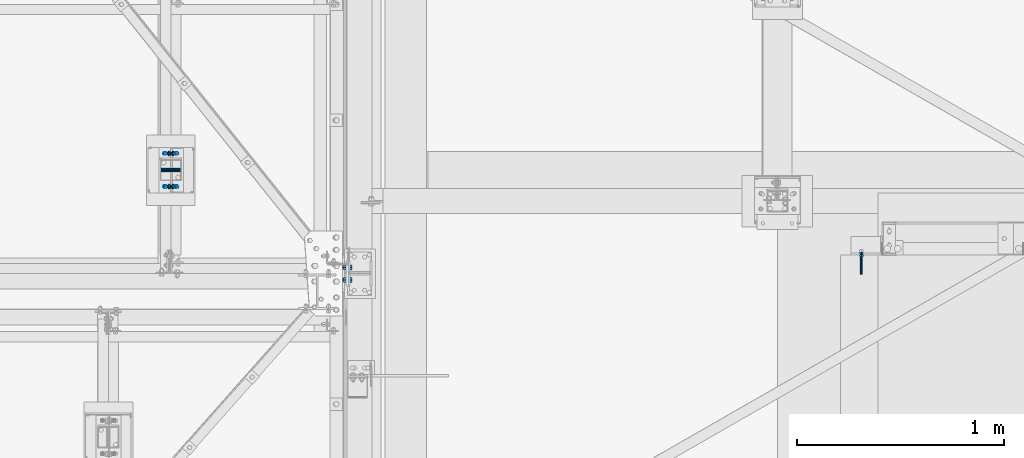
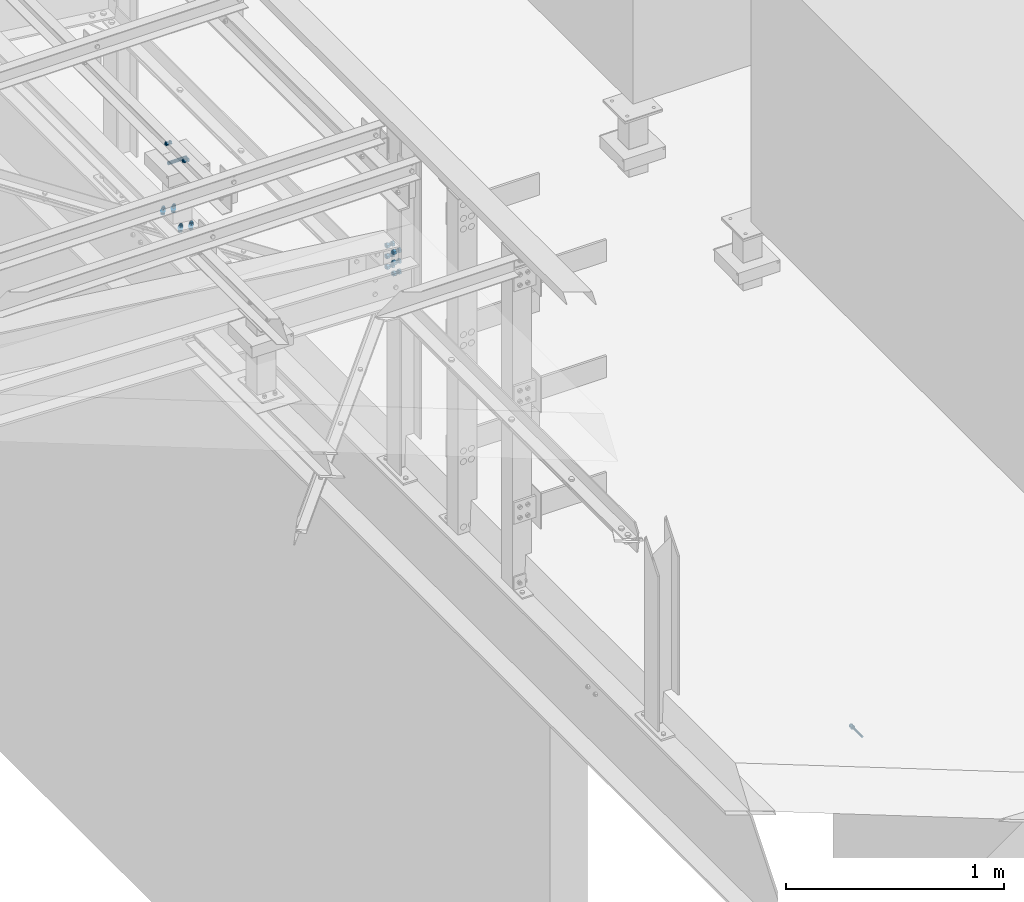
# One storey, part 366 of 3134: 6 mechanical fasteners, 5 elements without a shape of their own.
"""IFC2X3 building model written with IfcOpenShell, lengths in millimetres."""

from ifc_helpers import new_model, si_unit, frame, origin_with_axes, place, context, subcontext, project, spatial, faceted_brep, source, transform, mapped, material, type_object, element, aggregate, save


model = new_model("IFC2X3")

# Units and contexts
model_context = context("Model", 3, precision=1e-05, world=origin_with_axes())
body_context = subcontext(model_context, "Body", "Model", "MODEL_VIEW")
ifc_project = project(units=[si_unit("LENGTHUNIT", "METRE", prefix="MILLI"), si_unit("AREAUNIT", "SQUARE_METRE"), si_unit("VOLUMEUNIT", "CUBIC_METRE"), si_unit("MASSUNIT", "GRAM", prefix="KILO"), si_unit("TIMEUNIT", "SECOND"), si_unit("PLANEANGLEUNIT", "RADIAN"), si_unit("SOLIDANGLEUNIT", "STERADIAN"), si_unit("THERMODYNAMICTEMPERATUREUNIT", "DEGREE_CELSIUS"), si_unit("LUMINOUSINTENSITYUNIT", "LUMEN")], contexts=[model_context])

# Site, building, storey
site_placement = place(None, origin_with_axes())
site = spatial("IfcSite", under=ifc_project, at=site_placement, CompositionType="ELEMENT")
building_placement = place(site_placement, origin_with_axes())
building = spatial("IfcBuilding", under=site, at=building_placement, Name="Undefined", CompositionType="ELEMENT")
storey_placement = place(building_placement, origin_with_axes())
storey = spatial("IfcBuildingStorey", under=building, at=storey_placement, Name="Undefined", CompositionType="ELEMENT", Elevation=0.0)

# Assembly, mechanical fastener
assembly_1_placement = place(storey_placement, origin_with_axes())
assembly_1 = element("IfcElementAssembly", 1, at=assembly_1_placement, inside=storey, AssemblyPlace="NOTDEFINED", PredefinedType="RIGID_FRAME")
ifc_material_1 = material(Name="HILTI-HSA")
mechanical_fastener_type = type_object("IfcMechanicalFastenerType", Name="Bolt assembly")
shared_shape_1 = source(origin_with_axes(), body_context, "Body", "Brep", [
    faceted_brep([(10.3923048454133, -4.92, 0.0), (5.19615242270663, -4.92, 9.0), (-5.19615242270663, -4.92, 9.0), (-10.3923048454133, -4.92, 1.27269028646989e-15), (-5.19615242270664, -4.92, -9.0), (5.19615242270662, -4.92, -9.0), (5.19615242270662, 3.0, -9.0), (-5.19615242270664, 3.0, -9.0), (-10.3923048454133, 3.0, 1.27269028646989e-15), (-5.19615242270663, 3.0, 9.0), (5.19615242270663, 3.0, 9.0), (10.3923048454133, 3.0, 0.0), (6.0, 3.0, 0.0), (5.19615242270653, 3.0, 3.00000000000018), (2.99999999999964, 3.0, 5.19615242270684), (-6.21801588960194e-13, 3.0, 6.0), (-3.00000000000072, 3.0, 5.19615242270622), (-5.19615242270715, 3.0, 2.9999999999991), (-6.0, 3.0, -1.24360317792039e-12), (-5.19615242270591, 3.0, -3.00000000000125), (-2.99999999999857, 3.0, -5.19615242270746), (1.85874342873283e-12, 3.0, -6.0), (3.00000000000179, 3.0, -5.1961524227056), (5.19615242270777, 3.0, -2.99999999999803), (5.19615242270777, 103.0, -2.99999999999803), (3.00000000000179, 103.0, -5.1961524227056), (1.85874342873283e-12, 103.0, -6.0), (-2.99999999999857, 103.0, -5.19615242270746), (-5.19615242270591, 103.0, -3.00000000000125), (-6.0, 103.0, -1.24360317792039e-12), (-5.19615242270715, 103.0, 2.9999999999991), (-3.00000000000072, 103.0, 5.19615242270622), (-6.21801588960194e-13, 103.0, 6.0), (2.99999999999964, 103.0, 5.19615242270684), (5.19615242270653, 103.0, 3.00000000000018), (6.0, 103.0, 0.0), (11.5008173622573, 10.0, 0.0), (5.75040868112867, 10.0, 9.96), (-5.75040868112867, 10.0, 9.96), (-11.5008173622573, 10.0, 1.40844391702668e-15), (-5.75040868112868, 10.0, -9.96), (5.75040868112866, 10.0, -9.96), (5.75040868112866, 17.92, -9.96), (-5.75040868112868, 17.92, -9.96), (-11.5008173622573, 17.92, 1.40844391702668e-15), (-5.75040868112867, 17.92, 9.96), (5.75040868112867, 17.92, 9.96), (11.5008173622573, 17.92, 0.0)], [[[0, 1, 2, 3, 4, 5]], [[6, 7, 8, 9, 10, 11]], [[0, 11, 10, 1]], [[1, 10, 9, 2]], [[2, 9, 8, 3]], [[3, 8, 7, 4]], [[4, 7, 6, 5]], [[5, 6, 11, 0]], [[12, 13, 14, 15, 16, 17, 18, 19, 20, 21, 22, 23]], [[24, 25, 26, 27, 28, 29, 30, 31, 32, 33, 34, 35]], [[12, 35, 34, 13]], [[13, 34, 33, 14]], [[14, 33, 32, 15]], [[15, 32, 31, 16]], [[16, 31, 30, 17]], [[17, 30, 29, 18]], [[18, 29, 28, 19]], [[19, 28, 27, 20]], [[20, 27, 26, 21]], [[21, 26, 25, 22]], [[22, 25, 24, 23]], [[23, 24, 35, 12]], [[36, 37, 38, 39, 40, 41]], [[42, 43, 44, 45, 46, 47]], [[36, 47, 46, 37]], [[37, 46, 45, 38]], [[38, 45, 44, 39]], [[39, 44, 43, 40]], [[40, 43, 42, 41]], [[41, 42, 47, 36]]]),
    faceted_brep([(7.0, 3.0, 0.0), (6.06217782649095, 3.0, 3.50000000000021), (3.49999999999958, 3.0, 6.06217782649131), (-7.25435187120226e-13, 3.0, 7.0), (-3.50000000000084, 3.0, 6.06217782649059), (-6.06217782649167, 3.0, 3.49999999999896), (-7.0, 3.0, -1.45087037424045e-12), (-6.06217782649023, 3.0, -3.50000000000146), (-3.49999999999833, 3.0, -6.06217782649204), (2.1685340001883e-12, 3.0, -7.0), (3.50000000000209, 3.0, -6.06217782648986), (6.0621778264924, 3.0, -3.4999999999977), (6.0621778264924, 10.1, -3.4999999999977), (3.50000000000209, 10.1, -6.06217782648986), (2.1685340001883e-12, 10.1, -7.0), (-3.49999999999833, 10.1, -6.06217782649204), (-6.06217782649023, 10.1, -3.50000000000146), (-7.0, 10.1, -1.45087037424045e-12), (-6.06217782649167, 10.1, 3.49999999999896), (-3.50000000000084, 10.1, 6.06217782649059), (-7.25435187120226e-13, 10.1, 7.0), (3.49999999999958, 10.1, 6.06217782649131), (6.06217782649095, 10.1, 3.50000000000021), (7.0, 10.1, 0.0)], [[[0, 1, 2, 3, 4, 5, 6, 7, 8, 9, 10, 11]], [[12, 13, 14, 15, 16, 17, 18, 19, 20, 21, 22, 23]], [[0, 23, 22, 1]], [[1, 22, 21, 2]], [[2, 21, 20, 3]], [[3, 20, 19, 4]], [[4, 19, 18, 5]], [[5, 18, 17, 6]], [[6, 17, 16, 7]], [[7, 16, 15, 8]], [[8, 15, 14, 9]], [[9, 14, 13, 10]], [[10, 13, 12, 11]], [[11, 12, 23, 0]]]),
])
mechanical_fastener_1_placement = place(assembly_1_placement, frame((74235.0, 19550.0, 1650.0), z_axis=(1.0, 0.0, 0.0), x_axis=(0.0, 0.0, 1.0)))
mechanical_fastener_1 = element("IfcMechanicalFastener", 2, at=mechanical_fastener_1_placement, type_object=mechanical_fastener_type, material=ifc_material_1, Name="Bolt assembly", NominalDiameter=12.0, NominalLength=100.0, context=body_context, shape_type="MappedRepresentation", body=[
    mapped(shared_shape_1, transform((0.0, 0.0, 0.0))),
])
aggregate(assembly_1, [mechanical_fastener_1])

assembly_2_placement = place(storey_placement, origin_with_axes())
assembly_2 = element("IfcElementAssembly", 3, at=assembly_2_placement, inside=storey, AssemblyPlace="NOTDEFINED", PredefinedType="RIGID_FRAME")
ifc_material_2 = material(Name="8.8")
shared_shape_2 = source(origin_with_axes(), body_context, "Body", "Brep", [
    faceted_brep([(10.9696551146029, -14.0, 0.0), (5.48482755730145, -14.0, 9.5), (-5.48482755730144, -14.0, 9.5), (-10.9696551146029, -14.0, 1.34339530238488e-15), (-5.48482755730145, -14.0, -9.5), (5.48482755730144, -14.0, -9.50000000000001), (5.48482755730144, -6.0, -9.50000000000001), (-5.48482755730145, -6.0, -9.5), (-10.9696551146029, -6.0, 1.34339530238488e-15), (-5.48482755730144, -6.0, 9.5), (5.48482755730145, -6.0, 9.5), (10.9696551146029, -6.0, 0.0), (6.0, -6.0, 0.0), (5.19615242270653, -6.0, 3.00000000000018), (2.99999999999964, -6.0, 5.19615242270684), (-6.21801588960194e-13, -6.0, 6.0), (-3.00000000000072, -6.0, 5.19615242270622), (-5.19615242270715, -6.0, 2.9999999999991), (-6.0, -6.0, -1.24360317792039e-12), (-5.19615242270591, -6.0, -3.00000000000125), (-2.99999999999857, -6.0, -5.19615242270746), (1.85874342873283e-12, -6.0, -6.0), (3.00000000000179, -6.0, -5.1961524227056), (5.19615242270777, -6.0, -2.99999999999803), (5.19615242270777, 19.0, -2.99999999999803), (3.00000000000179, 19.0, -5.1961524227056), (1.85874342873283e-12, 19.0, -6.0), (-2.99999999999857, 19.0, -5.19615242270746), (-5.19615242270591, 19.0, -3.00000000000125), (-6.0, 19.0, -1.24360317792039e-12), (-5.19615242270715, 19.0, 2.9999999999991), (-3.00000000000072, 19.0, 5.19615242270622), (-6.21801588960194e-13, 19.0, 6.0), (2.99999999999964, 19.0, 5.19615242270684), (5.19615242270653, 19.0, 3.00000000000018), (6.0, 19.0, 0.0), (10.9696551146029, 4.00000000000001, 0.0), (5.48482755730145, 4.00000000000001, 9.5), (-5.48482755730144, 4.00000000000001, 9.5), (-10.9696551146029, 4.00000000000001, 1.34339530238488e-15), (-5.48482755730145, 4.00000000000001, -9.5), (5.48482755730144, 4.00000000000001, -9.50000000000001), (5.48482755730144, 14.0, -9.50000000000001), (-5.48482755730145, 14.0, -9.5), (-10.9696551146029, 14.0, 1.34339530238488e-15), (-5.48482755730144, 14.0, 9.5), (5.48482755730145, 14.0, 9.5), (10.9696551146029, 14.0, 0.0)], [[[0, 1, 2, 3, 4, 5]], [[6, 7, 8, 9, 10, 11]], [[0, 11, 10, 1]], [[1, 10, 9, 2]], [[2, 9, 8, 3]], [[3, 8, 7, 4]], [[4, 7, 6, 5]], [[5, 6, 11, 0]], [[12, 13, 14, 15, 16, 17, 18, 19, 20, 21, 22, 23]], [[24, 25, 26, 27, 28, 29, 30, 31, 32, 33, 34, 35]], [[12, 35, 34, 13]], [[13, 34, 33, 14]], [[14, 33, 32, 15]], [[15, 32, 31, 16]], [[16, 31, 30, 17]], [[17, 30, 29, 18]], [[18, 29, 28, 19]], [[19, 28, 27, 20]], [[20, 27, 26, 21]], [[21, 26, 25, 22]], [[22, 25, 24, 23]], [[23, 24, 35, 12]], [[36, 37, 38, 39, 40, 41]], [[42, 43, 44, 45, 46, 47]], [[36, 47, 46, 37]], [[37, 46, 45, 38]], [[38, 45, 44, 39]], [[39, 44, 43, 40]], [[40, 43, 42, 41]], [[41, 42, 47, 36]]]),
    faceted_brep([(7.0, -0.1, 0.0), (6.06217782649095, -0.1, 3.50000000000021), (3.49999999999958, -0.1, 6.06217782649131), (-7.25435187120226e-13, -0.1, 7.0), (-3.50000000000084, -0.1, 6.06217782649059), (-6.06217782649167, -0.1, 3.49999999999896), (-7.0, -0.1, -1.45087037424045e-12), (-6.06217782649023, -0.1, -3.50000000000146), (-3.49999999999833, -0.1, -6.06217782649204), (2.1685340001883e-12, -0.1, -7.0), (3.50000000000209, -0.1, -6.06217782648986), (6.0621778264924, -0.1, -3.4999999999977), (6.0621778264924, 4.00000000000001, -3.4999999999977), (3.50000000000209, 4.00000000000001, -6.06217782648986), (2.1685340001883e-12, 4.00000000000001, -7.0), (-3.49999999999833, 4.00000000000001, -6.06217782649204), (-6.06217782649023, 4.00000000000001, -3.50000000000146), (-7.0, 4.00000000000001, -1.45087037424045e-12), (-6.06217782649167, 4.00000000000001, 3.49999999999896), (-3.50000000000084, 4.00000000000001, 6.06217782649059), (-7.25435187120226e-13, 4.00000000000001, 7.0), (3.49999999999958, 4.00000000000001, 6.06217782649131), (6.06217782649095, 4.00000000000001, 3.50000000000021), (7.0, 4.00000000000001, 0.0), (7.0, -5.9, 0.0), (6.06217782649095, -5.9, 3.50000000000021), (3.49999999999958, -5.9, 6.06217782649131), (-7.25435187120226e-13, -5.9, 7.0), (-3.50000000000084, -5.9, 6.06217782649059), (-6.06217782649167, -5.9, 3.49999999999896), (-7.0, -5.9, -1.45087037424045e-12), (-6.06217782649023, -5.9, -3.50000000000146), (-3.49999999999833, -5.9, -6.06217782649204), (2.1685340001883e-12, -5.9, -7.0), (3.50000000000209, -5.9, -6.06217782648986), (6.0621778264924, -5.9, -3.4999999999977), (6.0621778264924, 0.0999999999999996, -3.4999999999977), (3.50000000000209, 0.0999999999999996, -6.06217782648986), (2.1685340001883e-12, 0.0999999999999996, -7.0), (-3.49999999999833, 0.0999999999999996, -6.06217782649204), (-6.06217782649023, 0.0999999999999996, -3.50000000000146), (-7.0, 0.0999999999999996, -1.45087037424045e-12), (-6.06217782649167, 0.0999999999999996, 3.49999999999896), (-3.50000000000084, 0.0999999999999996, 6.06217782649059), (-7.25435187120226e-13, 0.0999999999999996, 7.0), (3.49999999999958, 0.0999999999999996, 6.06217782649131), (6.06217782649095, 0.0999999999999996, 3.50000000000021), (7.0, 0.0999999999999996, 0.0)], [[[0, 1, 2, 3, 4, 5, 6, 7, 8, 9, 10, 11]], [[12, 13, 14, 15, 16, 17, 18, 19, 20, 21, 22, 23]], [[0, 23, 22, 1]], [[1, 22, 21, 2]], [[2, 21, 20, 3]], [[3, 20, 19, 4]], [[4, 19, 18, 5]], [[5, 18, 17, 6]], [[6, 17, 16, 7]], [[7, 16, 15, 8]], [[8, 15, 14, 9]], [[9, 14, 13, 10]], [[10, 13, 12, 11]], [[11, 12, 23, 0]], [[24, 25, 26, 27, 28, 29, 30, 31, 32, 33, 34, 35]], [[36, 37, 38, 39, 40, 41, 42, 43, 44, 45, 46, 47]], [[24, 47, 46, 25]], [[25, 46, 45, 26]], [[26, 45, 44, 27]], [[27, 44, 43, 28]], [[28, 43, 42, 29]], [[29, 42, 41, 30]], [[30, 41, 40, 31]], [[31, 40, 39, 32]], [[32, 39, 38, 33]], [[33, 38, 37, 34]], [[34, 37, 36, 35]], [[35, 36, 47, 24]]]),
])
mechanical_fastener_2_placement = place(assembly_2_placement, frame((70902.0, 19870.0, 5785.0), z_axis=(0.0, 0.0, 1.0), x_axis=(0.0, 1.0, 0.0)))
mechanical_fastener_2 = element("IfcMechanicalFastener", 4, at=mechanical_fastener_2_placement, type_object=mechanical_fastener_type, material=ifc_material_2, Name="Bolt assembly", NominalDiameter=12.0, NominalLength=25.0, context=body_context, shape_type="MappedRepresentation", body=[
    mapped(shared_shape_2, transform((0.0, 0.0, 0.0))),
    mapped(shared_shape_2, transform((160.0, 0.0, 0.0))),
])

assembly_3_placement = place(storey_placement, origin_with_axes())
assembly_3 = element("IfcElementAssembly", 5, at=assembly_3_placement, inside=storey, AssemblyPlace="NOTDEFINED", PredefinedType="RIGID_FRAME")
shared_shape_3 = source(origin_with_axes(), body_context, "Body", "Brep", [
    faceted_brep([(7.0, 13.0000253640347, 0.0), (6.06217782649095, 13.0000253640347, 3.50000000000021), (3.49999999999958, 13.0000253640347, 6.06217782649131), (-7.25435187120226e-13, 13.0000253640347, 7.0), (-3.50000000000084, 13.0000253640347, 6.06217782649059), (-6.06217782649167, 13.0000253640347, 3.49999999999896), (-7.0, 13.0000253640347, -1.45087037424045e-12), (-6.06217782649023, 13.0000253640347, -3.50000000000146), (-3.49999999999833, 13.0000253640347, -6.06217782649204), (2.1685340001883e-12, 13.0000253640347, -7.0), (3.50000000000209, 13.0000253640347, -6.06217782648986), (6.0621778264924, 13.0000253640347, -3.4999999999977), (6.0621778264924, 15.0999999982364, -3.4999999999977), (3.50000000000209, 15.0999999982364, -6.06217782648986), (2.1685340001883e-12, 15.0999999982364, -7.0), (-3.49999999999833, 15.0999999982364, -6.06217782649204), (-6.06217782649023, 15.0999999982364, -3.50000000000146), (-7.0, 15.0999999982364, -1.45087037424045e-12), (-6.06217782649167, 15.0999999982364, 3.49999999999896), (-3.50000000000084, 15.0999999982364, 6.06217782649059), (-7.25435187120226e-13, 15.0999999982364, 7.0), (3.49999999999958, 15.0999999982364, 6.06217782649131), (6.06217782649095, 15.0999999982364, 3.50000000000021), (7.0, 15.0999999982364, 0.0)], [[[0, 1, 2, 3, 4, 5, 6, 7, 8, 9, 10, 11]], [[12, 13, 14, 15, 16, 17, 18, 19, 20, 21, 22, 23]], [[0, 23, 22, 1]], [[1, 22, 21, 2]], [[2, 21, 20, 3]], [[3, 20, 19, 4]], [[4, 19, 18, 5]], [[5, 18, 17, 6]], [[6, 17, 16, 7]], [[7, 16, 15, 8]], [[8, 15, 14, 9]], [[9, 14, 13, 10]], [[10, 13, 12, 11]], [[11, 12, 23, 0]]]),
])
mechanical_fastener_3_placement = place(assembly_3_placement, frame((70871.4175926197, 19949.9983647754, 5400.15862565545), z_axis=(0.0, -1.0, 0.0), x_axis=(0.992631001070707, 0.0, -0.121176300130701)))
mechanical_fastener_3 = element("IfcMechanicalFastener", 6, at=mechanical_fastener_3_placement, type_object=mechanical_fastener_type, material=ifc_material_2, Name="Bolt assembly", NominalDiameter=12.0, NominalLength=2.0, context=body_context, shape_type="MappedRepresentation", body=[
    mapped(shared_shape_3, transform((0.0, -5.32963895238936e-10, -79.9999999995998))),
    mapped(shared_shape_3, transform((55.9999999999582, 4.54747350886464e-13, -80.0))),
    mapped(shared_shape_3, transform((0.0, 5.3114490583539e-10, 79.9999999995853))),
    mapped(shared_shape_3, transform((55.9999999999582, 4.54747350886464e-13, 80.0))),
])
aggregate(assembly_3, [mechanical_fastener_3])

# Mechanical fastener
shared_shape_4 = source(origin_with_axes(), body_context, "Body", "Brep", [
    faceted_brep([(9.0, -50.0, 0.0), (7.79422863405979, -50.0, 4.50000000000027), (4.49999999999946, -50.0, 7.79422863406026), (-9.3270238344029e-13, -50.0, 9.0), (-4.50000000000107, -50.0, 7.79422863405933), (-7.79422863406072, -50.0, 4.49999999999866), (-9.0, -50.0, -1.86540476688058e-12), (-7.79422863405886, -50.0, -4.50000000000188), (-4.49999999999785, -50.0, -7.79422863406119), (2.78811514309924e-12, -50.0, -9.0), (4.50000000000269, -50.0, -7.7942286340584), (7.79422863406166, -50.0, -4.49999999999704), (7.79422863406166, 50.1, -4.49999999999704), (4.50000000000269, 50.1, -7.7942286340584), (2.78811514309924e-12, 50.1, -9.0), (-4.49999999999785, 50.1, -7.79422863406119), (-7.79422863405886, 50.1, -4.50000000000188), (-9.0, 50.1, -1.86540476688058e-12), (-7.79422863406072, 50.1, 4.49999999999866), (-4.50000000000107, 50.1, 7.79422863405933), (-9.3270238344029e-13, 50.1, 9.0), (4.49999999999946, 50.1, 7.79422863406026), (7.79422863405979, 50.1, 4.50000000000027), (9.0, 50.1, 0.0)], [[[0, 1, 2, 3, 4, 5, 6, 7, 8, 9, 10, 11]], [[12, 13, 14, 15, 16, 17, 18, 19, 20, 21, 22, 23]], [[0, 23, 22, 1]], [[1, 22, 21, 2]], [[2, 21, 20, 3]], [[3, 20, 19, 4]], [[4, 19, 18, 5]], [[5, 18, 17, 6]], [[6, 17, 16, 7]], [[7, 16, 15, 8]], [[8, 15, 14, 9]], [[9, 14, 13, 10]], [[10, 13, 12, 11]], [[11, 12, 23, 0]]]),
])
mechanical_fastener_4_placement = place(assembly_2_placement, frame((70902.0, 19950.0, 5736.0), z_axis=(0.0, 1.0, 0.0), x_axis=(0.0, 0.0, 1.0)))
mechanical_fastener_4 = element("IfcMechanicalFastener", 7, at=mechanical_fastener_4_placement, type_object=mechanical_fastener_type, material=ifc_material_2, Name="Bolt assembly", NominalDiameter=16.0, NominalLength=100.0, context=body_context, shape_type="MappedRepresentation", body=[
    mapped(shared_shape_4, transform((0.0, 0.0, 0.0))),
])

aggregate(assembly_2, [mechanical_fastener_4, mechanical_fastener_2])

# Assembly, mechanical fastener
assembly_4_placement = place(storey_placement, origin_with_axes())
assembly_4 = element("IfcElementAssembly", 8, at=assembly_4_placement, inside=storey, Name="HEA120", AssemblyPlace="NOTDEFINED", PredefinedType="RIGID_FRAME")
shared_shape_5 = source(origin_with_axes(), body_context, "Body", "Brep", [
    faceted_brep([(13.856406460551, -18.0, 0.0), (6.92820323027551, -18.0, 12.0), (-6.92820323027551, -18.0, 12.0), (-13.856406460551, -18.0, 1.69692038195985e-15), (-6.92820323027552, -18.0, -12.0), (6.9282032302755, -18.0, -12.0), (6.9282032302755, -7.99999766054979, -12.0), (-6.92820323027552, -7.99999766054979, -12.0), (-13.856406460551, -7.99999766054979, 1.69692038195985e-15), (-6.92820323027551, -7.99999766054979, 12.0), (6.92820323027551, -7.99999766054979, 12.0), (13.856406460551, -7.99999766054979, 0.0), (8.0, -8.0, 0.0), (6.92820323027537, -8.0, 4.00000000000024), (3.99999999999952, -8.0, 6.92820323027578), (-8.29068785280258e-13, -8.0, 8.0), (-4.00000000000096, -8.0, 6.92820323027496), (-6.9282032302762, -8.0, 3.99999999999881), (-8.0, -8.0, -1.65813757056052e-12), (-6.92820323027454, -8.0, -4.00000000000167), (-3.99999999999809, -8.0, -6.92820323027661), (2.47832457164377e-12, -8.0, -8.0), (4.00000000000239, -8.0, -6.92820323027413), (6.92820323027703, -8.0, -3.99999999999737), (6.92820323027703, 27.0, -3.99999999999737), (4.00000000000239, 27.0, -6.92820323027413), (2.47832457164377e-12, 27.0, -8.0), (-3.99999999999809, 27.0, -6.92820323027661), (-6.92820323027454, 27.0, -4.00000000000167), (-8.0, 27.0, -1.65813757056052e-12), (-6.9282032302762, 27.0, 3.99999999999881), (-4.00000000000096, 27.0, 6.92820323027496), (-8.29068785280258e-13, 27.0, 8.0), (3.99999999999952, 27.0, 6.92820323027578), (6.92820323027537, 27.0, 4.00000000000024), (8.0, 27.0, 0.0), (13.856406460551, 9.99999995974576, 0.0), (6.92820323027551, 9.99999995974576, 12.0), (-6.92820323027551, 9.99999995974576, 12.0), (-13.856406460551, 9.99999995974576, 1.69692038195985e-15), (-6.92820323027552, 9.99999995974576, -12.0), (6.9282032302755, 9.99999995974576, -12.0), (6.9282032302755, 22.9999913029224, -12.0), (-6.92820323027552, 22.9999913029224, -12.0), (-13.856406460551, 22.9999913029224, 1.69692038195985e-15), (-6.92820323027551, 22.9999913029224, 12.0), (6.92820323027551, 22.9999913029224, 12.0), (13.856406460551, 22.9999913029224, 0.0)], [[[0, 1, 2, 3, 4, 5]], [[6, 7, 8, 9, 10, 11]], [[0, 11, 10, 1]], [[1, 10, 9, 2]], [[2, 9, 8, 3]], [[3, 8, 7, 4]], [[4, 7, 6, 5]], [[5, 6, 11, 0]], [[12, 13, 14, 15, 16, 17, 18, 19, 20, 21, 22, 23]], [[24, 25, 26, 27, 28, 29, 30, 31, 32, 33, 34, 35]], [[12, 35, 34, 13]], [[13, 34, 33, 14]], [[14, 33, 32, 15]], [[15, 32, 31, 16]], [[16, 31, 30, 17]], [[17, 30, 29, 18]], [[18, 29, 28, 19]], [[19, 28, 27, 20]], [[20, 27, 26, 21]], [[21, 26, 25, 22]], [[22, 25, 24, 23]], [[23, 24, 35, 12]], [[36, 37, 38, 39, 40, 41]], [[42, 43, 44, 45, 46, 47]], [[36, 47, 46, 37]], [[37, 46, 45, 38]], [[38, 45, 44, 39]], [[39, 44, 43, 40]], [[40, 43, 42, 41]], [[41, 42, 47, 36]]]),
    faceted_brep([(9.0, -0.1, 0.0), (7.79422863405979, -0.1, 4.50000000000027), (4.49999999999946, -0.1, 7.79422863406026), (-9.3270238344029e-13, -0.1, 9.0), (-4.50000000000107, -0.1, 7.79422863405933), (-7.79422863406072, -0.1, 4.49999999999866), (-9.0, -0.1, -1.86540476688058e-12), (-7.79422863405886, -0.1, -4.50000000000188), (-4.49999999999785, -0.1, -7.79422863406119), (2.78811514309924e-12, -0.1, -9.0), (4.50000000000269, -0.1, -7.7942286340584), (7.79422863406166, -0.1, -4.49999999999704), (7.79422863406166, 9.99999995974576, -4.49999999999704), (4.50000000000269, 9.99999995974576, -7.7942286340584), (2.78811514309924e-12, 9.99999995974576, -9.0), (-4.49999999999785, 9.99999995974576, -7.79422863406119), (-7.79422863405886, 9.99999995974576, -4.50000000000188), (-9.0, 9.99999995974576, -1.86540476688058e-12), (-7.79422863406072, 9.99999995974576, 4.49999999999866), (-4.50000000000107, 9.99999995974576, 7.79422863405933), (-9.3270238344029e-13, 9.99999995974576, 9.0), (4.49999999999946, 9.99999995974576, 7.79422863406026), (7.79422863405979, 9.99999995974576, 4.50000000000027), (9.0, 9.99999995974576, 0.0), (9.0, -7.9, 0.0), (7.79422863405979, -7.9, 4.50000000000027), (4.49999999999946, -7.9, 7.79422863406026), (-9.3270238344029e-13, -7.9, 9.0), (-4.50000000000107, -7.9, 7.79422863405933), (-7.79422863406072, -7.9, 4.49999999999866), (-9.0, -7.9, -1.86540476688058e-12), (-7.79422863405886, -7.9, -4.50000000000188), (-4.49999999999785, -7.9, -7.79422863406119), (2.78811514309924e-12, -7.9, -9.0), (4.50000000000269, -7.9, -7.7942286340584), (7.79422863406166, -7.9, -4.49999999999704), (7.79422863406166, 0.100000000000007, -4.49999999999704), (4.50000000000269, 0.100000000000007, -7.7942286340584), (2.78811514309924e-12, 0.100000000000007, -9.0), (-4.49999999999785, 0.100000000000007, -7.79422863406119), (-7.79422863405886, 0.100000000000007, -4.50000000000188), (-9.0, 0.100000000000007, -1.86540476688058e-12), (-7.79422863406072, 0.100000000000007, 4.49999999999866), (-4.50000000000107, 0.100000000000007, 7.79422863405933), (-9.3270238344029e-13, 0.100000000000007, 9.0), (4.49999999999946, 0.100000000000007, 7.79422863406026), (7.79422863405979, 0.100000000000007, 4.50000000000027), (9.0, 0.100000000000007, 0.0)], [[[0, 1, 2, 3, 4, 5, 6, 7, 8, 9, 10, 11]], [[12, 13, 14, 15, 16, 17, 18, 19, 20, 21, 22, 23]], [[0, 23, 22, 1]], [[1, 22, 21, 2]], [[2, 21, 20, 3]], [[3, 20, 19, 4]], [[4, 19, 18, 5]], [[5, 18, 17, 6]], [[6, 17, 16, 7]], [[7, 16, 15, 8]], [[8, 15, 14, 9]], [[9, 14, 13, 10]], [[10, 13, 12, 11]], [[11, 12, 23, 0]], [[24, 25, 26, 27, 28, 29, 30, 31, 32, 33, 34, 35]], [[36, 37, 38, 39, 40, 41, 42, 43, 44, 45, 46, 47]], [[24, 47, 46, 25]], [[25, 46, 45, 26]], [[26, 45, 44, 27]], [[27, 44, 43, 28]], [[28, 43, 42, 29]], [[29, 42, 41, 30]], [[30, 41, 40, 31]], [[31, 40, 39, 32]], [[32, 39, 38, 33]], [[33, 38, 37, 34]], [[34, 37, 36, 35]], [[35, 36, 47, 24]]]),
])
mechanical_fastener_5_placement = place(assembly_4_placement, frame((71758.0000000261, 19450.0, 5251.2505303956), z_axis=(0.0, 1.0, 0.0), x_axis=(0.0, 0.0, -1.0)))
mechanical_fastener_5 = element("IfcMechanicalFastener", 9, at=mechanical_fastener_5_placement, type_object=mechanical_fastener_type, material=ifc_material_2, Name="Bolt assembly", NominalDiameter=16.0, NominalLength=35.0, context=body_context, shape_type="MappedRepresentation", body=[
    mapped(shared_shape_5, transform((0.0, 4.54747350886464e-13, -30.0000000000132))),
    mapped(shared_shape_5, transform((60.0, 0.0, -30.0))),
    mapped(shared_shape_5, transform((120.0, 0.0, -30.0))),
    mapped(shared_shape_5, transform((0.0, 4.54747350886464e-13, 30.0000000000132))),
    mapped(shared_shape_5, transform((60.0, 0.0, 30.0))),
    mapped(shared_shape_5, transform((120.0, 0.0, 30.0))),
])
aggregate(assembly_4, [mechanical_fastener_5])

assembly_5_placement = place(storey_placement, origin_with_axes())
assembly_5 = element("IfcElementAssembly", 10, at=assembly_5_placement, inside=storey, Name="HEA100", AssemblyPlace="NOTDEFINED", PredefinedType="RIGID_FRAME")
shared_shape_6 = source(origin_with_axes(), body_context, "Body", "Brep", [
    faceted_brep([(10.9696551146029, -0.987246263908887, 0.0), (5.48482755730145, -0.987246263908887, 9.5), (-5.48482755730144, -0.987246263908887, 9.5), (-10.9696551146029, -0.987246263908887, 1.34339530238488e-15), (-5.48482755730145, -0.987246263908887, -9.5), (5.48482755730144, -0.987246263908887, -9.50000000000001), (5.48482755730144, 7.01275373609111, -9.50000000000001), (-5.48482755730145, 7.01275373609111, -9.5), (-10.9696551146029, 7.01275373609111, 1.34339530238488e-15), (-5.48482755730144, 7.01275373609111, 9.5), (5.48482755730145, 7.01275373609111, 9.5), (10.9696551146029, 7.01275373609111, 0.0), (6.0, 7.01275373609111, 0.0), (5.19615242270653, 7.01275373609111, 3.00000000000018), (2.99999999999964, 7.01275373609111, 5.19615242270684), (-6.21801588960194e-13, 7.01275373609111, 6.0), (-3.00000000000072, 7.01275373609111, 5.19615242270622), (-5.19615242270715, 7.01275373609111, 2.9999999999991), (-6.0, 7.01275373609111, -1.24360317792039e-12), (-5.19615242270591, 7.01275373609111, -3.00000000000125), (-2.99999999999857, 7.01275373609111, -5.19615242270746), (1.85874342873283e-12, 7.01275373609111, -6.0), (3.00000000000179, 7.01275373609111, -5.1961524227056), (5.19615242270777, 7.01275373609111, -2.99999999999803), (5.19615242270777, 42.0127537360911, -2.99999999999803), (3.00000000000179, 42.0127537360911, -5.1961524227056), (1.85874342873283e-12, 42.0127537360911, -6.0), (-2.99999999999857, 42.0127537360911, -5.19615242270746), (-5.19615242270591, 42.0127537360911, -3.00000000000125), (-6.0, 42.0127537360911, -1.24360317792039e-12), (-5.19615242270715, 42.0127537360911, 2.9999999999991), (-3.00000000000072, 42.0127537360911, 5.19615242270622), (-6.21801588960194e-13, 42.0127537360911, 6.0), (2.99999999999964, 42.0127537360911, 5.19615242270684), (5.19615242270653, 42.0127537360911, 3.00000000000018), (6.0, 42.0127537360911, 0.0), (10.9696551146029, 25.0147990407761, 0.0), (5.48482755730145, 25.0147990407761, 9.5), (-5.48482755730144, 25.0147990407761, 9.5), (-10.9696551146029, 25.0147990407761, 1.34339530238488e-15), (-5.48482755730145, 25.0147990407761, -9.5), (5.48482755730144, 25.0147990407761, -9.50000000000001), (5.48482755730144, 35.0147990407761, -9.50000000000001), (-5.48482755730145, 35.0147990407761, -9.5), (-10.9696551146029, 35.0147990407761, 1.34339530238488e-15), (-5.48482755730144, 35.0147990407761, 9.5), (5.48482755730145, 35.0147990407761, 9.5), (10.9696551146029, 35.0147990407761, 0.0)], [[[0, 1, 2, 3, 4, 5]], [[6, 7, 8, 9, 10, 11]], [[0, 11, 10, 1]], [[1, 10, 9, 2]], [[2, 9, 8, 3]], [[3, 8, 7, 4]], [[4, 7, 6, 5]], [[5, 6, 11, 0]], [[12, 13, 14, 15, 16, 17, 18, 19, 20, 21, 22, 23]], [[24, 25, 26, 27, 28, 29, 30, 31, 32, 33, 34, 35]], [[12, 35, 34, 13]], [[13, 34, 33, 14]], [[14, 33, 32, 15]], [[15, 32, 31, 16]], [[16, 31, 30, 17]], [[17, 30, 29, 18]], [[18, 29, 28, 19]], [[19, 28, 27, 20]], [[20, 27, 26, 21]], [[21, 26, 25, 22]], [[22, 25, 24, 23]], [[23, 24, 35, 12]], [[36, 37, 38, 39, 40, 41]], [[42, 43, 44, 45, 46, 47]], [[36, 47, 46, 37]], [[37, 46, 45, 38]], [[38, 45, 44, 39]], [[39, 44, 43, 40]], [[40, 43, 42, 41]], [[41, 42, 47, 36]]]),
    faceted_brep([(7.0, 16.9147990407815, 0.0), (6.06217782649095, 16.9147990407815, 3.50000000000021), (3.49999999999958, 16.9147990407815, 6.06217782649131), (-7.25435187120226e-13, 16.9147990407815, 7.0), (-3.50000000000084, 16.9147990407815, 6.06217782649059), (-6.06217782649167, 16.9147990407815, 3.49999999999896), (-7.0, 16.9147990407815, -1.45087037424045e-12), (-6.06217782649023, 16.9147990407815, -3.50000000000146), (-3.49999999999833, 16.9147990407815, -6.06217782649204), (2.1685340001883e-12, 16.9147990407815, -7.0), (3.50000000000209, 16.9147990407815, -6.06217782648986), (6.0621778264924, 16.9147990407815, -3.4999999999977), (6.0621778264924, 25.0147990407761, -3.4999999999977), (3.50000000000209, 25.0147990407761, -6.06217782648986), (2.1685340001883e-12, 25.0147990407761, -7.0), (-3.49999999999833, 25.0147990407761, -6.06217782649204), (-6.06217782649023, 25.0147990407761, -3.50000000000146), (-7.0, 25.0147990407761, -1.45087037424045e-12), (-6.06217782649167, 25.0147990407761, 3.49999999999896), (-3.50000000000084, 25.0147990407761, 6.06217782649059), (-7.25435187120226e-13, 25.0147990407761, 7.0), (3.49999999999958, 25.0147990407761, 6.06217782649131), (6.06217782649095, 25.0147990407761, 3.50000000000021), (7.0, 25.0147990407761, 0.0), (7.0, 7.11275373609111, 0.0), (6.06217782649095, 7.11275373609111, 3.50000000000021), (3.49999999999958, 7.11275373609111, 6.06217782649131), (-7.25435187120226e-13, 7.11275373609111, 7.0), (-3.50000000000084, 7.11275373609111, 6.06217782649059), (-6.06217782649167, 7.11275373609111, 3.49999999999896), (-7.0, 7.11275373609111, -1.45087037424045e-12), (-6.06217782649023, 7.11275373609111, -3.50000000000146), (-3.49999999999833, 7.11275373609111, -6.06217782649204), (2.1685340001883e-12, 7.11275373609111, -7.0), (3.50000000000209, 7.11275373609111, -6.06217782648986), (6.0621778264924, 7.11275373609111, -3.4999999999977), (6.0621778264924, 15.1127778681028, -3.4999999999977), (3.50000000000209, 15.1127778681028, -6.06217782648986), (2.1685340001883e-12, 15.1127778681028, -7.0), (-3.49999999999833, 15.1127778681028, -6.06217782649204), (-6.06217782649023, 15.1127778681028, -3.50000000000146), (-7.0, 15.1127778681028, -1.45087037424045e-12), (-6.06217782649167, 15.1127778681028, 3.49999999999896), (-3.50000000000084, 15.1127778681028, 6.06217782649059), (-7.25435187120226e-13, 15.1127778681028, 7.0), (3.49999999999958, 15.1127778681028, 6.06217782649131), (6.06217782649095, 15.1127778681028, 3.50000000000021), (7.0, 15.1127778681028, 0.0)], [[[0, 1, 2, 3, 4, 5, 6, 7, 8, 9, 10, 11]], [[12, 13, 14, 15, 16, 17, 18, 19, 20, 21, 22, 23]], [[0, 23, 22, 1]], [[1, 22, 21, 2]], [[2, 21, 20, 3]], [[3, 20, 19, 4]], [[4, 19, 18, 5]], [[5, 18, 17, 6]], [[6, 17, 16, 7]], [[7, 16, 15, 8]], [[8, 15, 14, 9]], [[9, 14, 13, 10]], [[10, 13, 12, 11]], [[11, 12, 23, 0]], [[24, 25, 26, 27, 28, 29, 30, 31, 32, 33, 34, 35]], [[36, 37, 38, 39, 40, 41, 42, 43, 44, 45, 46, 47]], [[24, 47, 46, 25]], [[25, 46, 45, 26]], [[26, 45, 44, 27]], [[27, 44, 43, 28]], [[28, 43, 42, 29]], [[29, 42, 41, 30]], [[30, 41, 40, 31]], [[31, 40, 39, 32]], [[32, 39, 38, 33]], [[33, 38, 37, 34]], [[34, 37, 36, 35]], [[35, 36, 47, 24]]]),
])
mechanical_fastener_6_placement = place(assembly_5_placement, frame((70871.1771290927, 19949.9983647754, 5398.17222758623), z_axis=(0.0, -1.0, 0.0), x_axis=(0.992631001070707, 0.0, -0.121176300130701)))
mechanical_fastener_6 = element("IfcMechanicalFastener", 11, at=mechanical_fastener_6_placement, type_object=mechanical_fastener_type, material=ifc_material_2, Name="Bolt assembly", NominalDiameter=12.0, NominalLength=35.0, context=body_context, shape_type="MappedRepresentation", body=[
    mapped(shared_shape_6, transform((0.0, -5.32963895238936e-10, -79.9999999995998))),
    mapped(shared_shape_6, transform((55.9999999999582, 4.54747350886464e-13, -80.0))),
    mapped(shared_shape_6, transform((0.0, 5.3114490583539e-10, 79.9999999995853))),
    mapped(shared_shape_6, transform((55.9999999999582, 4.54747350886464e-13, 80.0))),
])
aggregate(assembly_5, [mechanical_fastener_6])

save(model, "model.ifc")
